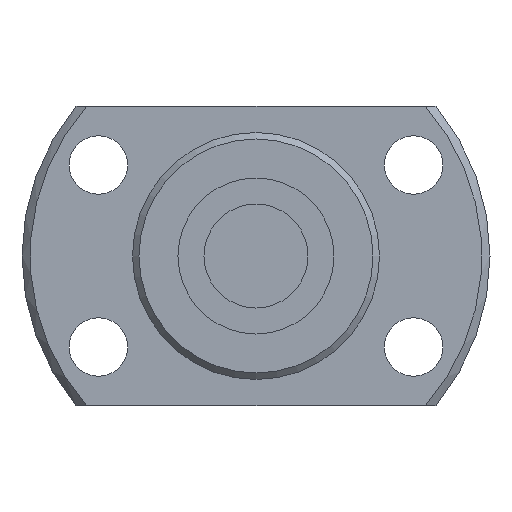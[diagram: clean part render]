
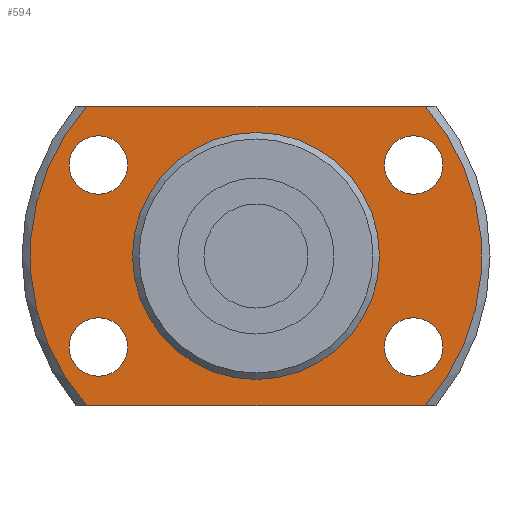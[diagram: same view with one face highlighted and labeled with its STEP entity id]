
A CAD part, left-side view. The second image highlights one B-rep face of the part: STEP entity #594.
In plain terms, the highlighted planar face has unit normal (-1, 0, 0) as drawn and (1, 0, 0) by its records, which use the part's own axes.
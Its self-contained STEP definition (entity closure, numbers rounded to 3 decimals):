
#80=CIRCLE('',#673,17.375);
#95=CIRCLE('',#697,9.3);
#96=CIRCLE('',#699,17.375);
#97=CIRCLE('',#700,2.25);
#98=CIRCLE('',#701,2.25);
#99=CIRCLE('',#702,2.25);
#100=CIRCLE('',#703,2.25);
#193=ORIENTED_EDGE('',*,*,#292,.T.);
#194=ORIENTED_EDGE('',*,*,#270,.T.);
#195=ORIENTED_EDGE('',*,*,#293,.T.);
#196=ORIENTED_EDGE('',*,*,#294,.T.);
#197=ORIENTED_EDGE('',*,*,#295,.F.);
#198=ORIENTED_EDGE('',*,*,#296,.F.);
#199=ORIENTED_EDGE('',*,*,#297,.F.);
#200=ORIENTED_EDGE('',*,*,#298,.F.);
#201=ORIENTED_EDGE('',*,*,#291,.F.);
#270=EDGE_CURVE('',#330,#332,#80,.T.);
#291=EDGE_CURVE('',#351,#351,#95,.T.);
#292=EDGE_CURVE('',#352,#330,#374,.T.);
#293=EDGE_CURVE('',#332,#353,#375,.T.);
#294=EDGE_CURVE('',#353,#352,#96,.T.);
#295=EDGE_CURVE('',#354,#354,#97,.T.);
#296=EDGE_CURVE('',#355,#355,#98,.T.);
#297=EDGE_CURVE('',#356,#356,#99,.T.);
#298=EDGE_CURVE('',#357,#357,#100,.T.);
#330=VERTEX_POINT('',#986);
#332=VERTEX_POINT('',#993);
#351=VERTEX_POINT('',#1049);
#352=VERTEX_POINT('',#1052);
#353=VERTEX_POINT('',#1054);
#354=VERTEX_POINT('',#1057);
#355=VERTEX_POINT('',#1059);
#356=VERTEX_POINT('',#1061);
#357=VERTEX_POINT('',#1063);
#374=LINE('',#1051,#392);
#375=LINE('',#1053,#393);
#392=VECTOR('',#869,1000.);
#393=VECTOR('',#870,1000.);
#451=EDGE_LOOP('',(#193,#194,#195,#196));
#452=EDGE_LOOP('',(#197));
#453=EDGE_LOOP('',(#198));
#454=EDGE_LOOP('',(#199));
#455=EDGE_LOOP('',(#200));
#456=EDGE_LOOP('',(#201));
#525=FACE_BOUND('',#451,.T.);
#526=FACE_BOUND('',#452,.T.);
#527=FACE_BOUND('',#453,.T.);
#528=FACE_BOUND('',#454,.T.);
#529=FACE_BOUND('',#455,.T.);
#530=FACE_BOUND('',#456,.T.);
#560=PLANE('',#698);
#594=ADVANCED_FACE('',(#525,#526,#527,#528,#529,#530),#560,.T.);
#673=AXIS2_PLACEMENT_3D('',#994,#813,#814);
#697=AXIS2_PLACEMENT_3D('',#1048,#865,#866);
#698=AXIS2_PLACEMENT_3D('',#1050,#867,#868);
#699=AXIS2_PLACEMENT_3D('',#1055,#871,#872);
#700=AXIS2_PLACEMENT_3D('',#1056,#873,#874);
#701=AXIS2_PLACEMENT_3D('',#1058,#875,#876);
#702=AXIS2_PLACEMENT_3D('',#1060,#877,#878);
#703=AXIS2_PLACEMENT_3D('',#1062,#879,#880);
#813=DIRECTION('',(1.,0.,0.));
#814=DIRECTION('',(0.,0.,-1.));
#865=DIRECTION('',(1.,0.,0.));
#866=DIRECTION('',(0.,0.,-1.));
#867=DIRECTION('',(1.,0.,0.));
#868=DIRECTION('',(0.,0.,-1.));
#869=DIRECTION('',(0.,-1.,0.));
#870=DIRECTION('',(0.,1.,0.));
#871=DIRECTION('',(1.,0.,0.));
#872=DIRECTION('',(0.,0.,-1.));
#873=DIRECTION('',(1.,0.,0.));
#874=DIRECTION('',(0.,0.,-1.));
#875=DIRECTION('',(1.,0.,0.));
#876=DIRECTION('',(0.,0.,-1.));
#877=DIRECTION('',(1.,0.,0.));
#878=DIRECTION('',(0.,0.,-1.));
#879=DIRECTION('',(1.,0.,0.));
#880=DIRECTION('',(0.,0.,-1.));
#986=CARTESIAN_POINT('',(5.,-13.025,11.5));
#993=CARTESIAN_POINT('',(5.,-13.025,-11.5));
#994=CARTESIAN_POINT('',(5.,0.,0.));
#1048=CARTESIAN_POINT('',(5.,0.,0.));
#1049=CARTESIAN_POINT('',(5.,0.,-9.3));
#1050=CARTESIAN_POINT('',(5.,9.3,0.));
#1051=CARTESIAN_POINT('',(5.,18.,11.5));
#1052=CARTESIAN_POINT('',(5.,13.025,11.5));
#1053=CARTESIAN_POINT('',(5.,-18.,-11.5));
#1054=CARTESIAN_POINT('',(5.,13.025,-11.5));
#1055=CARTESIAN_POINT('',(5.,0.,0.));
#1056=CARTESIAN_POINT('',(5.,12.124,7.));
#1057=CARTESIAN_POINT('',(5.,12.124,4.75));
#1058=CARTESIAN_POINT('',(5.,-12.124,7.));
#1059=CARTESIAN_POINT('',(5.,-12.124,4.75));
#1060=CARTESIAN_POINT('',(5.,-12.124,-7.));
#1061=CARTESIAN_POINT('',(5.,-12.124,-9.25));
#1062=CARTESIAN_POINT('',(5.,12.124,-7.));
#1063=CARTESIAN_POINT('',(5.,12.124,-9.25));
